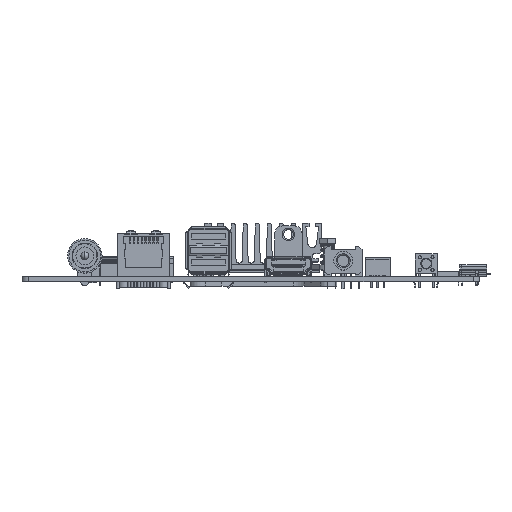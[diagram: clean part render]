
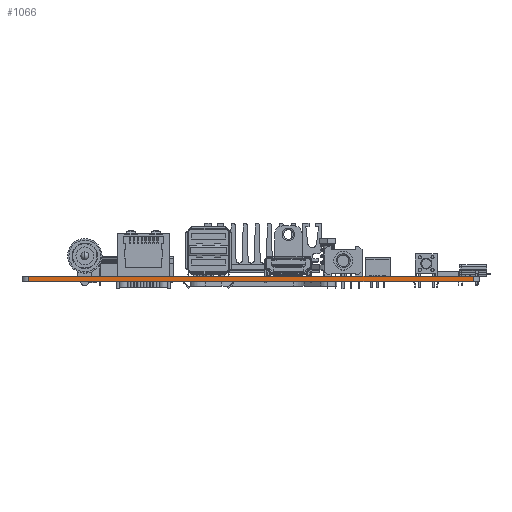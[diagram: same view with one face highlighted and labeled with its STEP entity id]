
A CAD part, top view. The second image highlights one B-rep face of the part: STEP entity #1066.
In plain terms, the highlighted planar face has unit normal (0, 0, 1).
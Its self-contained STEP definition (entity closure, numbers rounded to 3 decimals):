
#104=DIRECTION('',(1.,0.,0.));
#105=VECTOR('',#104,142.05);
#106=CARTESIAN_POINT('',(-71.025,0.,50.8));
#107=LINE('',#106,#105);
#261=DIRECTION('',(1.,0.,0.));
#262=VECTOR('',#261,142.05);
#263=CARTESIAN_POINT('',(-71.025,1.6,50.8));
#264=LINE('',#263,#262);
#410=DIRECTION('',(0.,-1.,0.));
#411=VECTOR('',#410,1.6);
#412=CARTESIAN_POINT('',(71.025,1.6,50.8));
#413=LINE('',#412,#411);
#414=DIRECTION('',(0.,-1.,0.));
#415=VECTOR('',#414,1.6);
#416=CARTESIAN_POINT('',(-71.025,1.6,50.8));
#417=LINE('',#416,#415);
#531=CARTESIAN_POINT('',(71.025,0.,50.8));
#533=VERTEX_POINT('',#531);
#534=CARTESIAN_POINT('',(71.025,1.6,50.8));
#535=VERTEX_POINT('',#534);
#554=CARTESIAN_POINT('',(-71.025,0.,50.8));
#556=VERTEX_POINT('',#554);
#560=CARTESIAN_POINT('',(-71.025,1.6,50.8));
#561=VERTEX_POINT('',#560);
#1054=CARTESIAN_POINT('',(-73.025,0.,50.8));
#1055=DIRECTION('',(0.,0.,1.));
#1056=DIRECTION('',(1.,0.,0.));
#1057=AXIS2_PLACEMENT_3D('',#1054,#1055,#1056);
#1058=PLANE('',#1057);
#1059=ORIENTED_EDGE('',*,*,#1046,.T.);
#1060=ORIENTED_EDGE('',*,*,#661,.F.);
#1062=ORIENTED_EDGE('',*,*,#1061,.F.);
#1063=ORIENTED_EDGE('',*,*,#785,.T.);
#1064=EDGE_LOOP('',(#1059,#1060,#1062,#1063));
#1065=FACE_OUTER_BOUND('',#1064,.F.);
#1066=ADVANCED_FACE('',(#1065),#1058,.T.);
#661=EDGE_CURVE('',#556,#533,#107,.T.);
#785=EDGE_CURVE('',#561,#535,#264,.T.);
#1046=EDGE_CURVE('',#535,#533,#413,.T.);
#1061=EDGE_CURVE('',#561,#556,#417,.T.);
